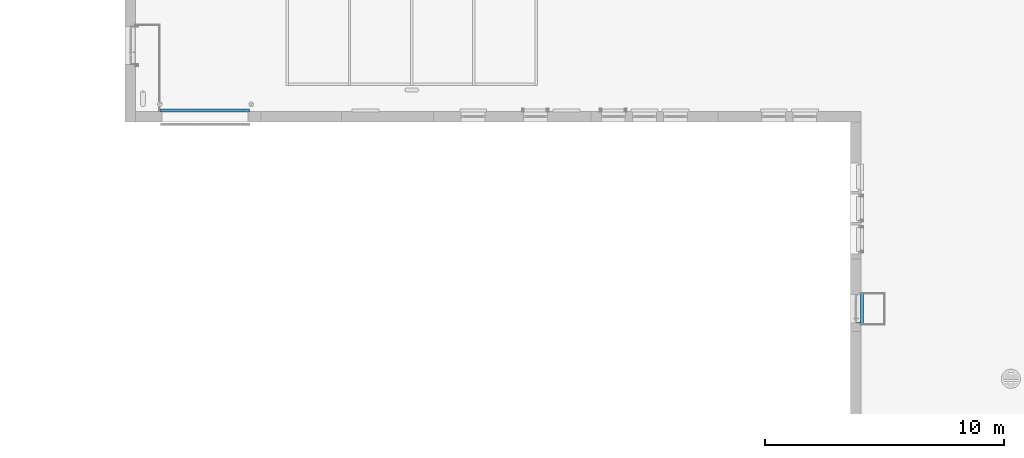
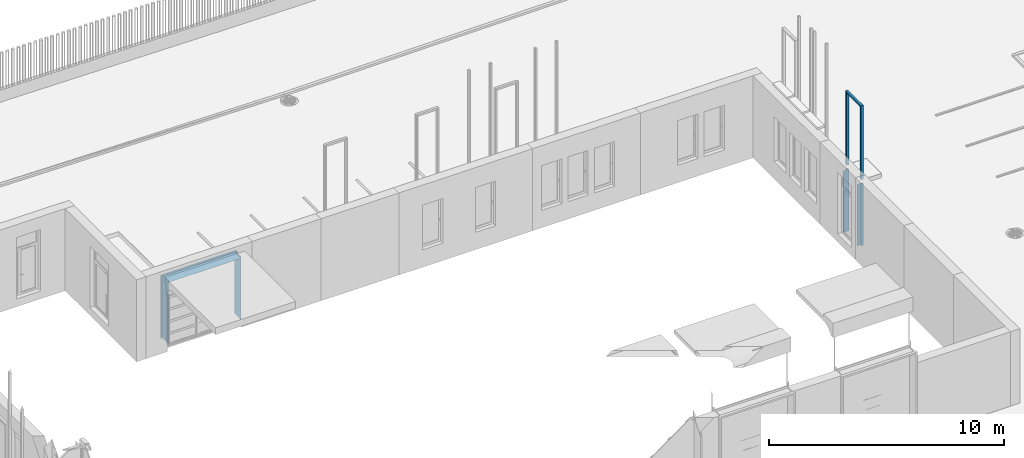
# One storey, part 61 of 77: 2 discrete accessories.
"""IFC2X3 building model written with IfcOpenShell, lengths in millimetres."""

from ifc_helpers import new_model, entity, si_unit, converted_unit, derived_unit, direction, frame, origin, place, context, subcontext, project, spatial, faceted_brep, source, transform, mapped, material, type_object, type_shapes, element, save


model = new_model("IFC2X3")

# Units and contexts
model_context = context("Model", 3, precision=0.01, world=origin(), true_north=direction((6.12303176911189e-17, 1.0)))
body_context = subcontext(model_context, "Body", "Model", "MODEL_VIEW")
ifc_project = project(units=[si_unit("LENGTHUNIT", "METRE", prefix="MILLI"), si_unit("AREAUNIT", "SQUARE_METRE"), si_unit("VOLUMEUNIT", "CUBIC_METRE"), converted_unit("PLANEANGLEUNIT", "DEGREE", entity("IfcRatioMeasure", 0.0174532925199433), si_unit("PLANEANGLEUNIT", "RADIAN"), dimensions=[0, 0, 0, 0, 0, 0, 0]), si_unit("MASSUNIT", "GRAM", prefix="KILO"), derived_unit("MASSDENSITYUNIT", [(si_unit("MASSUNIT", "GRAM", prefix="KILO"), 1), (si_unit("LENGTHUNIT", "METRE"), -3)]), si_unit("TIMEUNIT", "SECOND"), si_unit("FREQUENCYUNIT", "HERTZ"), si_unit("THERMODYNAMICTEMPERATUREUNIT", "DEGREE_CELSIUS"), derived_unit("THERMALTRANSMITTANCEUNIT", [(si_unit("MASSUNIT", "GRAM", prefix="KILO"), 1), (si_unit("THERMODYNAMICTEMPERATUREUNIT", "KELVIN"), -1), (si_unit("TIMEUNIT", "SECOND"), -3)]), derived_unit("VOLUMETRICFLOWRATEUNIT", [(si_unit("LENGTHUNIT", "METRE"), 3), (si_unit("TIMEUNIT", "SECOND"), -1)]), si_unit("ELECTRICCURRENTUNIT", "AMPERE"), si_unit("ELECTRICVOLTAGEUNIT", "VOLT"), si_unit("POWERUNIT", "WATT"), si_unit("FORCEUNIT", "NEWTON", prefix="KILO"), si_unit("ILLUMINANCEUNIT", "LUX"), si_unit("LUMINOUSFLUXUNIT", "LUMEN"), si_unit("LUMINOUSINTENSITYUNIT", "CANDELA"), derived_unit("USERDEFINED", [(si_unit("MASSUNIT", "GRAM", prefix="KILO"), -1), (si_unit("LENGTHUNIT", "METRE"), -2), (si_unit("TIMEUNIT", "SECOND"), 3), (si_unit("LUMINOUSFLUXUNIT", "LUMEN"), 1)]), derived_unit("LINEARVELOCITYUNIT", [(si_unit("LENGTHUNIT", "METRE"), 1), (si_unit("TIMEUNIT", "SECOND"), -1)]), si_unit("PRESSUREUNIT", "PASCAL"), derived_unit("USERDEFINED", [(si_unit("LENGTHUNIT", "METRE"), -2), (si_unit("MASSUNIT", "GRAM", prefix="KILO"), 1), (si_unit("TIMEUNIT", "SECOND"), -2)])], contexts=[model_context])

# Site, building, storey
site_placement = place(None, origin())
site = spatial("IfcSite", under=ifc_project, at=site_placement, Name="Default", CompositionType="ELEMENT")
building_placement = place(site_placement, origin())
building = spatial("IfcBuilding", under=site, at=building_placement, CompositionType="ELEMENT")
storey_placement = place(building_placement, origin())
storey = spatial("IfcBuildingStorey", under=building, at=storey_placement, Name="1. KORRUS", CompositionType="ELEMENT", Elevation=0.0)

# Discrete accessories
ifc_material = material(Name="Default New Material-must-varv")
discrete_accessory_type_1 = type_object("IfcDiscreteAccessoryType", Name="akna-ylaplekid1200", material=ifc_material)
shared_shape_1 = source(origin(), body_context, "Body", "Brep", [
    faceted_brep([(580.0, 280.0, 2700.0), (580.0, 0.0, 2700.0), (584.0, 0.0, 2700.0), (584.0, 276.0, 2700.0), (656.0, 276.0, 2700.0), (656.0, 160.0, 2700.0), (660.0, 160.0, 2700.0), (660.0, 280.0, 2700.0), (580.0, 280.0, -500.0), (660.0, 280.0, -500.0), (660.0, 160.0, -500.0), (656.0, 160.0, -500.0), (656.0, 276.0, -500.0), (584.0, 276.0, -500.0), (584.0, 0.0, -500.0), (580.0, 0.0, -500.0)], [[[0, 1, 2, 3, 4, 5, 6, 7]], [[8, 9, 10, 11, 12, 13, 14, 15]], [[0, 8, 15, 1]], [[1, 15, 14, 2]], [[2, 14, 13, 3]], [[3, 13, 12, 4]], [[4, 12, 11, 5]], [[5, 11, 10, 6]], [[6, 10, 9, 7]], [[7, 9, 8, 0]]]),
    faceted_brep([(-580.0, 280.0, 2700.0), (-660.0, 280.0, 2700.0), (-660.0, 160.0, 2700.0), (-656.0, 160.0, 2700.0), (-656.0, 276.0, 2700.0), (-584.0, 276.0, 2700.0), (-584.0, 0.0, 2700.0), (-580.0, 0.0, 2700.0), (-580.0, 280.0, -500.0), (-580.0, 0.0, -500.0), (-584.0, 0.0, -500.0), (-584.0, 276.0, -500.0), (-656.0, 276.0, -500.0), (-656.0, 160.0, -500.0), (-660.0, 160.0, -500.0), (-660.0, 280.0, -500.0)], [[[0, 1, 2, 3, 4, 5, 6, 7]], [[8, 9, 10, 11, 12, 13, 14, 15]], [[7, 9, 8, 0]], [[6, 10, 9, 7]], [[5, 11, 10, 6]], [[4, 12, 11, 5]], [[3, 13, 12, 4]], [[2, 14, 13, 3]], [[1, 15, 14, 2]], [[0, 8, 15, 1]]]),
    faceted_brep([(-580.0, 280.0, 2925.0), (-580.0, 160.0, 2925.0), (-584.0, 160.0, 2925.0), (-584.0, 276.0, 2925.0), (-656.0, 276.0, 2925.0), (-656.0, 160.0, 2925.0), (-660.0, 160.0, 2925.0), (-660.0, 280.0, 2925.0), (-580.0, 276.0, 6684.0), (-580.0, 276.0, 6756.31946847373), (-580.0, 160.0, 6765.9861351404), (-580.0, 160.0, 6684.0), (-580.0, 160.0, 6680.0), (580.0, 160.0, 6680.0), (580.0, 160.0, 2925.0), (584.0, 160.0, 2925.0), (584.0, 160.0, 6765.9861351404), (656.0, 160.0, 6765.9861351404), (656.0, 160.0, 2925.0), (660.0, 160.0, 2925.0), (660.0, 160.0, 6770.0), (-660.0, 160.0, 6770.0), (-656.0, 160.0, 6765.9861351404), (-584.0, 160.0, 6765.9861351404), (580.0, 160.0, 6684.0), (580.0, 160.0, 6765.9861351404), (-584.0, 276.0, 6756.31946847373), (-656.0, 276.0, 6756.31946847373), (-660.0, 280.0, 6760.0), (660.0, 280.0, 6760.0), (660.0, 280.0, 2925.0), (580.0, 280.0, 2925.0), (580.0, 280.0, 6680.0), (-580.0, 280.0, 6680.0), (580.0, 276.0, 6684.0), (580.0, 276.0, 6756.31946847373), (656.0, 276.0, 2925.0), (584.0, 276.0, 2925.0), (584.0, 276.0, 6756.31946847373), (656.0, 276.0, 6756.31946847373)], [[[0, 1, 2, 3, 4, 5, 6, 7]], [[8, 9, 10, 11]], [[1, 12, 13, 14, 15, 16, 17, 18, 19, 20, 21, 6, 5, 22, 23, 2], [24, 11, 10, 25]], [[2, 23, 26, 3]], [[3, 26, 27, 4]], [[4, 27, 22, 5]], [[6, 21, 28, 7]], [[7, 28, 29, 30, 31, 32, 33, 0]], [[20, 29, 28, 21]], [[34, 35, 9, 8]], [[8, 11, 24, 34]], [[32, 13, 12, 33]], [[31, 30, 19, 18, 36, 37, 15, 14]], [[24, 25, 35, 34]], [[37, 38, 16, 15]], [[36, 39, 38, 37]], [[18, 17, 39, 36]], [[30, 29, 20, 19]], [[22, 27, 26, 23]], [[10, 9, 35, 25]], [[16, 38, 39, 17]], [[14, 13, 32, 31]], [[0, 33, 12, 1]]]),
])
type_shapes(discrete_accessory_type_1, [shared_shape_1])
discrete_accessory_1_placement = place(storey_placement, frame((39770.0, 13700.0, 500.0), z_axis=(0.0, 0.0, 1.0), x_axis=(0.0, -1.0, 0.0)))
element("IfcDiscreteAccessory", 1, at=discrete_accessory_1_placement, inside=storey, type_object=discrete_accessory_type_1, material=ifc_material, Name="akna-ylaplekid_uks120:akna-ylaplekid1200", ObjectType="akna-ylaplekid1200", context=body_context, shape_type="MappedRepresentation", body=[
    mapped(shared_shape_1, transform((0.0, 0.0, 0.0), scale=1.0)),
])
discrete_accessory_type_2 = type_object("IfcDiscreteAccessoryType", Name="akna-ylaplekid3600", material=ifc_material)
shared_shape_2 = source(origin(), body_context, "Body", "Brep", [
    faceted_brep([(-1780.0, -270.0, 2770.0), (-1780.0, 160.0, 2770.0), (-1784.0, 160.0, 2770.0), (-1784.0, -270.0, 2770.0), (-1780.0, 280.0, -500.0), (-1780.0, -270.0, -500.0), (-1784.0, -270.0, -500.0), (-1784.0, 276.0, -500.0), (-1856.0, 276.0, -500.0), (-1856.0, 160.0, -500.0), (-1860.0, 160.0, -500.0), (-1860.0, 280.0, -500.0), (-1780.0, -270.0, 2684.0), (-1780.0, 276.0, 2684.0), (-1780.0, 276.0, 2756.31946847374), (-1780.0, 160.0, 2765.9861351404), (-1780.0, -270.0, 2680.0), (1780.0, -270.0, 2680.0), (1780.0, -270.0, -500.0), (1784.0, -270.0, -500.0), (1784.0, -270.0, 2770.0), (1780.0, -270.0, 2770.0), (1780.0, -270.0, 2684.0), (-1784.0, 160.0, 2765.9861351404), (-1784.0, 276.0, 2756.31946847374), (-1856.0, 276.0, 2756.31946847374), (-1856.0, 160.0, 2765.9861351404), (1780.0, 160.0, 2765.9861351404), (1780.0, 160.0, 2770.0), (-1860.0, 160.0, 2770.0), (-1860.0, 280.0, 2760.0), (1860.0, 280.0, 2760.0), (1860.0, 280.0, -500.0), (1780.0, 280.0, -500.0), (1780.0, 280.0, 2680.0), (-1780.0, 280.0, 2680.0), (1784.0, 160.0, 2770.0), (1860.0, 160.0, 2770.0), (1780.0, 276.0, 2684.0), (1780.0, 276.0, 2756.31946847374), (1860.0, 160.0, -500.0), (1856.0, 160.0, -500.0), (1856.0, 276.0, -500.0), (1784.0, 276.0, -500.0), (1784.0, 276.0, 2756.31946847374), (1784.0, 160.0, 2765.9861351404), (1856.0, 276.0, 2756.31946847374), (1856.0, 160.0, 2765.9861351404)], [[[0, 1, 2, 3]], [[4, 5, 6, 7, 8, 9, 10, 11]], [[0, 12, 13, 14, 15, 1]], [[3, 6, 5, 16, 17, 18, 19, 20, 21, 22, 12, 0]], [[6, 3, 2, 23, 24, 7]], [[7, 24, 25, 8]], [[8, 25, 26, 9]], [[1, 15, 27, 28]], [[10, 29, 30, 11]], [[11, 30, 31, 32, 33, 34, 35, 4]], [[1, 28, 36, 37, 31, 30, 29, 2]], [[38, 39, 14, 13]], [[13, 12, 22, 38]], [[34, 17, 16, 35]], [[20, 36, 28, 21]], [[33, 32, 40, 41, 42, 43, 19, 18]], [[28, 27, 39, 38, 22, 21]], [[43, 44, 45, 36, 20, 19]], [[42, 46, 44, 43]], [[41, 47, 46, 42]], [[32, 31, 37, 40]], [[26, 25, 24, 23]], [[15, 14, 39, 27]], [[45, 44, 46, 47]], [[18, 17, 34, 33]], [[9, 26, 23, 2, 29, 10]], [[40, 37, 36, 45, 47, 41]], [[4, 35, 16, 5]]]),
])
type_shapes(discrete_accessory_type_2, [shared_shape_2])
discrete_accessory_2_placement = place(storey_placement, frame((12550.0, 21770.0517807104, 500.0)))
element("IfcDiscreteAccessory", 2, at=discrete_accessory_2_placement, inside=storey, type_object=discrete_accessory_type_2, material=ifc_material, Name="ukse-ylaplekid_3600:akna-ylaplekid3600", ObjectType="akna-ylaplekid3600", context=body_context, shape_type="MappedRepresentation", body=[
    mapped(shared_shape_2, transform((0.0, 0.0, 0.0), scale=1.0)),
])

save(model, "model.ifc")
